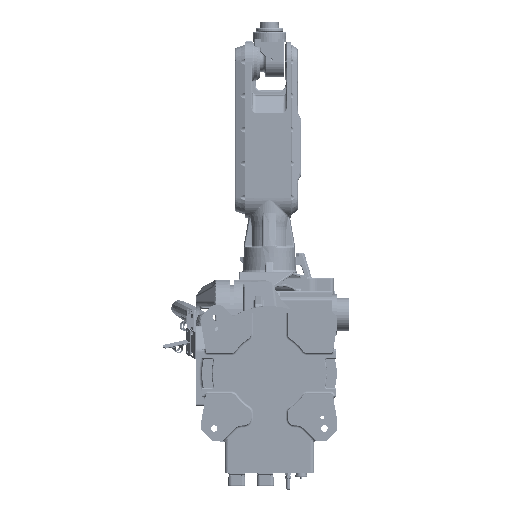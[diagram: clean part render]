
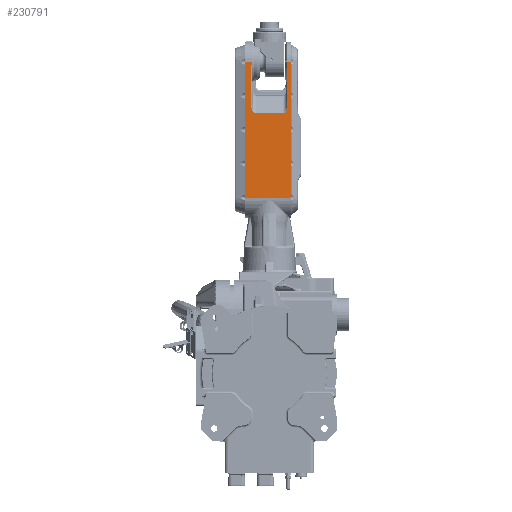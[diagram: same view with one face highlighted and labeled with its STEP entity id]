
A CAD part, front view. The second image highlights one B-rep face of the part: STEP entity #230791.
In plain terms, the highlighted planar face has unit normal (0, -1, 0).
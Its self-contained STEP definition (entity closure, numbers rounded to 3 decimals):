
#219198=DIRECTION('',(1.,0.,0.));
#219199=VECTOR('',#219198,17.372);
#219200=CARTESIAN_POINT('',(47.828,-54.5,0.));
#219201=LINE('',#219200,#219199);
#219206=CARTESIAN_POINT('',(47.828,-54.5,0.));
#219207=CARTESIAN_POINT('',(47.828,-54.5,0.475));
#219208=CARTESIAN_POINT('',(47.849,-54.5,
1.928));
#219209=CARTESIAN_POINT('',(47.99,-54.5,
4.457));
#219210=CARTESIAN_POINT('',(48.345,-54.5,
7.691));
#219211=CARTESIAN_POINT('',(48.772,-54.5,
9.943));
#219212=CARTESIAN_POINT('',(48.996,-54.5,
11.135));
#219213=CARTESIAN_POINT('',(49.,-54.5,
11.153));
#219215=CARTESIAN_POINT('',(-37.,-54.5,
140.667));
#219216=CARTESIAN_POINT('',(-37.364,-54.5,
140.667));
#219217=CARTESIAN_POINT('',(-38.105,-54.5,
140.611));
#219218=CARTESIAN_POINT('',(-39.258,-54.5,
140.342));
#219219=CARTESIAN_POINT('',(-40.452,-54.5,
139.86));
#219220=CARTESIAN_POINT('',(-41.672,-54.5,
139.132));
#219221=CARTESIAN_POINT('',(-42.895,-54.5,
138.141));
#219222=CARTESIAN_POINT('',(-44.128,-54.5,
136.822));
#219223=CARTESIAN_POINT('',(-45.33,-54.5,135.146));
#219224=CARTESIAN_POINT('',(-46.458,-54.5,
133.089));
#219225=CARTESIAN_POINT('',(-47.471,-54.5,
130.603));
#219226=CARTESIAN_POINT('',(-48.308,-54.5,
127.642));
#219227=CARTESIAN_POINT('',(-48.867,-54.5,
124.269));
#219228=CARTESIAN_POINT('',(-49.,-54.5,
121.896));
#219229=CARTESIAN_POINT('',(-49.,-54.5,
120.667));
#219231=CARTESIAN_POINT('',(-49.,-54.5,
22.123));
#219232=CARTESIAN_POINT('',(-49.,-54.5,
19.49));
#219233=CARTESIAN_POINT('',(-48.747,-54.5,
14.345));
#219234=CARTESIAN_POINT('',(-48.282,-54.5,
7.222));
#219235=CARTESIAN_POINT('',(-48.137,-54.5,
2.394));
#219236=CARTESIAN_POINT('',(-48.136,-54.5,
0.));
#219242=DIRECTION('',(1.,0.,0.));
#219243=VECTOR('',#219242,12.064);
#219244=CARTESIAN_POINT('',(-60.2,-54.5,0.));
#219245=LINE('',#219244,#219243);
#219302=DIRECTION('',(-1.,0.,0.));
#219303=VECTOR('',#219302,125.4);
#219304=CARTESIAN_POINT('',(65.2,-54.5,370.));
#219305=LINE('',#219304,#219303);
#219472=DIRECTION('',(0.,0.,-1.));
#219473=VECTOR('',#219472,370.);
#219474=CARTESIAN_POINT('',(-60.2,-54.5,370.));
#219475=LINE('',#219474,#219473);
#222368=DIRECTION('',(0.,0.,1.));
#222369=VECTOR('',#222368,98.543);
#222370=CARTESIAN_POINT('',(-49.,-54.5,
22.123));
#222371=LINE('',#222370,#222369);
#222381=DIRECTION('',(1.,0.,0.));
#222382=VECTOR('',#222381,74.);
#222383=CARTESIAN_POINT('',(-37.,-54.5,
140.667));
#222384=LINE('',#222383,#222382);
#222394=CARTESIAN_POINT('',(37.,-54.5,
140.667));
#222395=CARTESIAN_POINT('',(37.364,-54.5,
140.667));
#222396=CARTESIAN_POINT('',(38.106,-54.5,
140.611));
#222397=CARTESIAN_POINT('',(39.256,-54.5,
140.343));
#222398=CARTESIAN_POINT('',(40.446,-54.5,
139.863));
#222399=CARTESIAN_POINT('',(41.667,-54.5,
139.136));
#222400=CARTESIAN_POINT('',(42.892,-54.5,
138.144));
#222401=CARTESIAN_POINT('',(44.124,-54.5,
136.827));
#222402=CARTESIAN_POINT('',(45.327,-54.5,
135.152));
#222403=CARTESIAN_POINT('',(46.455,-54.5,
133.096));
#222404=CARTESIAN_POINT('',(47.468,-54.5,
130.61));
#222405=CARTESIAN_POINT('',(48.307,-54.5,
127.648));
#222406=CARTESIAN_POINT('',(48.867,-54.5,
124.272));
#222407=CARTESIAN_POINT('',(49.,-54.5,
121.897));
#222408=CARTESIAN_POINT('',(49.,-54.5,
120.667));
#222424=DIRECTION('',(0.,0.,-1.));
#222425=VECTOR('',#222424,109.514);
#222426=CARTESIAN_POINT('',(49.,-54.5,
120.667));
#222427=LINE('',#222426,#222425);
#224636=DIRECTION('',(0.,0.,1.));
#224637=VECTOR('',#224636,370.);
#224638=CARTESIAN_POINT('',(65.2,-54.5,0.));
#224639=LINE('',#224638,#224637);
#229353=CARTESIAN_POINT('',(65.2,-54.5,370.));
#229354=CARTESIAN_POINT('',(-60.2,-54.5,370.));
#229355=VERTEX_POINT('',#229353);
#229356=VERTEX_POINT('',#229354);
#229383=CARTESIAN_POINT('',(-60.2,-54.5,0.));
#229384=CARTESIAN_POINT('',(-48.136,-54.5,
0.));
#229385=VERTEX_POINT('',#229383);
#229386=VERTEX_POINT('',#229384);
#229387=CARTESIAN_POINT('',(65.2,-54.5,0.));
#229388=VERTEX_POINT('',#229387);
#229389=CARTESIAN_POINT('',(47.828,-54.5,0.));
#229390=VERTEX_POINT('',#229389);
#229391=VERTEX_POINT('',#219213);
#229392=CARTESIAN_POINT('',(49.,-54.5,
120.667));
#229393=VERTEX_POINT('',#229392);
#229394=VERTEX_POINT('',#222394);
#229395=CARTESIAN_POINT('',(-37.,-54.5,
140.667));
#229396=VERTEX_POINT('',#229395);
#229397=VERTEX_POINT('',#219229);
#229398=CARTESIAN_POINT('',(-49.,-54.5,
22.123));
#229399=VERTEX_POINT('',#229398);
#230761=CARTESIAN_POINT('',(-59.,-54.5,370.));
#230762=DIRECTION('',(0.,-1.,0.));
#230763=DIRECTION('',(0.,0.,-1.));
#230764=AXIS2_PLACEMENT_3D('',#230761,#230762,#230763);
#230765=PLANE('',#230764);
#230767=ORIENTED_EDGE('',*,*,#230766,.F.);
#230769=ORIENTED_EDGE('',*,*,#230768,.F.);
#230771=ORIENTED_EDGE('',*,*,#230770,.F.);
#230773=ORIENTED_EDGE('',*,*,#230772,.F.);
#230774=ORIENTED_EDGE('',*,*,#230738,.F.);
#230776=ORIENTED_EDGE('',*,*,#230775,.T.);
#230778=ORIENTED_EDGE('',*,*,#230777,.F.);
#230780=ORIENTED_EDGE('',*,*,#230779,.F.);
#230782=ORIENTED_EDGE('',*,*,#230781,.F.);
#230784=ORIENTED_EDGE('',*,*,#230783,.T.);
#230786=ORIENTED_EDGE('',*,*,#230785,.F.);
#230788=ORIENTED_EDGE('',*,*,#230787,.T.);
#230789=EDGE_LOOP('',(#230767,#230769,#230771,#230773,#230774,#230776,#230778,
#230780,#230782,#230784,#230786,#230788));
#230790=FACE_OUTER_BOUND('',#230789,.F.);
#230791=ADVANCED_FACE('',(#230790),#230765,.T.);
#219214=B_SPLINE_CURVE_WITH_KNOTS('',3,(#219206,#219207,#219208,#219209,#219210,
#219211,#219212,#219213),.UNSPECIFIED.,.F.,.F.,(4,1,1,1,1,4),(0.,
0.127,0.388,0.676,0.995,1.),
.UNSPECIFIED.);
#219230=B_SPLINE_CURVE_WITH_KNOTS('',3,(#219215,#219216,#219217,#219218,#219219,
#219220,#219221,#219222,#219223,#219224,#219225,#219226,#219227,#219228,
#219229),.UNSPECIFIED.,.F.,.F.,(4,1,1,1,1,1,1,1,1,1,1,1,4),(0.,
0.083,0.167,0.25,0.333,0.417,
0.5,0.583,0.667,0.75,0.833,
0.917,1.),.UNSPECIFIED.);
#219237=B_SPLINE_CURVE_WITH_KNOTS('',3,(#219231,#219232,#219233,#219234,#219235,
#219236),.UNSPECIFIED.,.F.,.F.,(4,1,1,4),(0.,0.333,
0.667,1.),.UNSPECIFIED.);
#222409=B_SPLINE_CURVE_WITH_KNOTS('',3,(#222394,#222395,#222396,#222397,#222398,
#222399,#222400,#222401,#222402,#222403,#222404,#222405,#222406,#222407,
#222408),.UNSPECIFIED.,.F.,.F.,(4,1,1,1,1,1,1,1,1,1,1,1,4),(0.,
0.083,0.167,0.25,0.333,0.417,
0.5,0.583,0.667,0.75,0.833,
0.917,1.),.UNSPECIFIED.);
#230738=EDGE_CURVE('',#229390,#229388,#219201,.T.);
#230766=EDGE_CURVE('',#229385,#229386,#219245,.T.);
#230768=EDGE_CURVE('',#229356,#229385,#219475,.T.);
#230770=EDGE_CURVE('',#229355,#229356,#219305,.T.);
#230772=EDGE_CURVE('',#229388,#229355,#224639,.T.);
#230775=EDGE_CURVE('',#229390,#229391,#219214,.T.);
#230777=EDGE_CURVE('',#229393,#229391,#222427,.T.);
#230779=EDGE_CURVE('',#229394,#229393,#222409,.T.);
#230781=EDGE_CURVE('',#229396,#229394,#222384,.T.);
#230783=EDGE_CURVE('',#229396,#229397,#219230,.T.);
#230785=EDGE_CURVE('',#229399,#229397,#222371,.T.);
#230787=EDGE_CURVE('',#229399,#229386,#219237,.T.);
